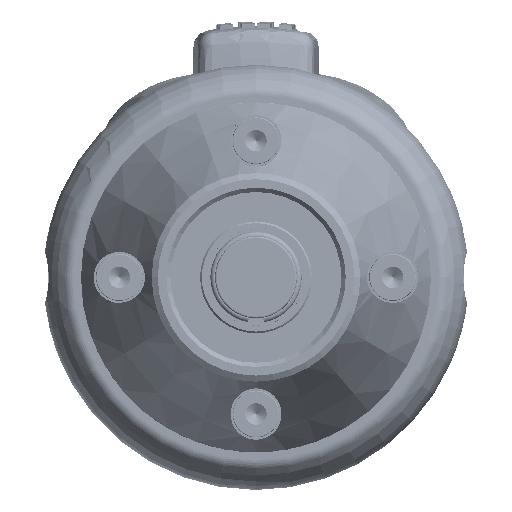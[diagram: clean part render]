
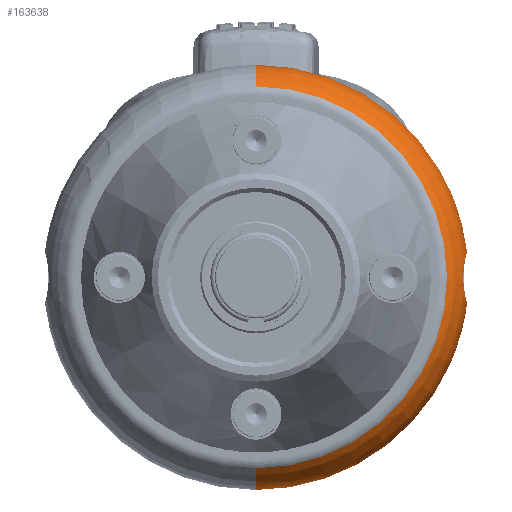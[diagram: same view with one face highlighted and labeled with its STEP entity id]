
A CAD part, front view. The second image highlights one B-rep face of the part: STEP entity #163638.
In plain terms, the highlighted toroidal (fillet/blend) face has major radius 17.4 mm and minor radius 7.5 mm.
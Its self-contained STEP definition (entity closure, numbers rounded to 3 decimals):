
#133213=CARTESIAN_POINT('',(0.,18.,17.4));
#133214=DIRECTION('',(-1.,0.,0.));
#133215=DIRECTION('',(0.,-0.75,0.661));
#133216=AXIS2_PLACEMENT_3D('',#133213,#133214,#133215);
#135645=CARTESIAN_POINT('',(0.,18.,-17.4));
#135646=DIRECTION('',(-1.,0.,0.));
#135647=DIRECTION('',(0.,0.289,-0.957));
#135648=AXIS2_PLACEMENT_3D('',#135645,#135646,#135647);
#139813=CARTESIAN_POINT('',(0.,12.375,0.));
#139814=DIRECTION('',(0.,-1.,0.));
#139815=DIRECTION('',(0.,0.,-1.));
#139816=AXIS2_PLACEMENT_3D('',#139813,#139814,#139815);
#139818=CARTESIAN_POINT('',(0.,20.171,0.));
#139819=DIRECTION('',(0.,-1.,0.));
#139820=DIRECTION('',(0.,0.,-1.));
#139821=AXIS2_PLACEMENT_3D('',#139818,#139819,#139820);
#139823=CARTESIAN_POINT('',(0.,20.171,0.));
#139824=DIRECTION('',(0.,-1.,0.));
#139825=DIRECTION('',(0.996,0.,0.084));
#139826=AXIS2_PLACEMENT_3D('',#139823,#139824,#139825);
#139835=CARTESIAN_POINT('',(24.719,18.,-3.));
#139836=CARTESIAN_POINT('',(24.719,18.265,
-3.));
#139837=CARTESIAN_POINT('',(24.699,18.798,
-2.93));
#139838=CARTESIAN_POINT('',(24.612,19.553,
-2.61));
#139839=CARTESIAN_POINT('',(24.532,19.982,
-2.268));
#139840=CARTESIAN_POINT('',(24.492,20.171,
-2.07));
#139842=CARTESIAN_POINT('',(24.492,20.171,
2.07));
#139843=CARTESIAN_POINT('',(24.512,20.075,
2.171));
#139844=CARTESIAN_POINT('',(24.553,19.87,
2.358));
#139845=CARTESIAN_POINT('',(24.611,19.523,
2.596));
#139846=CARTESIAN_POINT('',(24.656,19.167,
2.772));
#139847=CARTESIAN_POINT('',(24.687,18.839,
2.887));
#139848=CARTESIAN_POINT('',(24.707,18.533,
2.957));
#139849=CARTESIAN_POINT('',(24.716,18.266,
2.992));
#139850=CARTESIAN_POINT('',(24.719,18.087,
3.));
#139851=CARTESIAN_POINT('',(24.719,18.,3.));
#139877=CARTESIAN_POINT('',(24.719,18.,3.));
#139878=CARTESIAN_POINT('',(24.719,17.855,
3.));
#139879=CARTESIAN_POINT('',(24.713,17.564,
2.98));
#139880=CARTESIAN_POINT('',(24.685,17.122,
2.88));
#139881=CARTESIAN_POINT('',(24.645,16.734,
2.729));
#139882=CARTESIAN_POINT('',(24.599,16.404,
2.549));
#139883=CARTESIAN_POINT('',(24.545,16.085,
2.322));
#139884=CARTESIAN_POINT('',(24.477,15.756,
2.009));
#139885=CARTESIAN_POINT('',(24.411,15.48,
1.648));
#139886=CARTESIAN_POINT('',(24.353,15.265,
1.258));
#139887=CARTESIAN_POINT('',(24.308,15.111,
0.848));
#139888=CARTESIAN_POINT('',(24.28,15.02,
0.427));
#139889=CARTESIAN_POINT('',(24.274,15.,0.142));
#139890=CARTESIAN_POINT('',(24.274,15.,0.));
#139900=CARTESIAN_POINT('',(24.274,15.,0.));
#139901=CARTESIAN_POINT('',(24.274,15.,-0.251));
#139902=CARTESIAN_POINT('',(24.294,15.062,
-0.761));
#139903=CARTESIAN_POINT('',(24.384,15.369,
-1.514));
#139904=CARTESIAN_POINT('',(24.501,15.846,
-2.137));
#139905=CARTESIAN_POINT('',(24.617,16.477,
-2.626));
#139906=CARTESIAN_POINT('',(24.699,17.218,
-2.932));
#139907=CARTESIAN_POINT('',(24.719,17.74,
-3.));
#139908=CARTESIAN_POINT('',(24.719,18.,-3.));
#149538=CARTESIAN_POINT('',(0.,12.375,22.361));
#149539=CARTESIAN_POINT('',(0.,20.171,24.579));
#149540=VERTEX_POINT('',#149538);
#149541=VERTEX_POINT('',#149539);
#150794=CARTESIAN_POINT('',(0.,20.171,-24.579));
#150795=CARTESIAN_POINT('',(24.492,20.171,
-2.07));
#150796=VERTEX_POINT('',#150794);
#150797=VERTEX_POINT('',#150795);
#151746=CARTESIAN_POINT('',(0.,12.375,-22.361));
#151747=VERTEX_POINT('',#151746);
#152605=CARTESIAN_POINT('',(24.492,20.171,
2.07));
#152606=VERTEX_POINT('',#152605);
#152653=CARTESIAN_POINT('',(24.719,18.,-3.));
#152655=VERTEX_POINT('',#152653);
#152657=CARTESIAN_POINT('',(24.719,18.,3.));
#152659=VERTEX_POINT('',#152657);
#152661=VERTEX_POINT('',#139890);
#163616=CARTESIAN_POINT('',(0.,18.,0.));
#163617=DIRECTION('',(0.,-1.,0.));
#163618=DIRECTION('',(0.,0.,1.));
#163619=AXIS2_PLACEMENT_3D('',#163616,#163617,#163618);
#163620=TOROIDAL_SURFACE('',#163619,17.4,7.5);
#163622=ORIENTED_EDGE('',*,*,#163621,.T.);
#163624=ORIENTED_EDGE('',*,*,#163623,.T.);
#163626=ORIENTED_EDGE('',*,*,#163625,.T.);
#163628=ORIENTED_EDGE('',*,*,#163627,.T.);
#163630=ORIENTED_EDGE('',*,*,#163629,.F.);
#163631=ORIENTED_EDGE('',*,*,#157557,.T.);
#163632=ORIENTED_EDGE('',*,*,#163609,.T.);
#163633=ORIENTED_EDGE('',*,*,#155006,.T.);
#163635=ORIENTED_EDGE('',*,*,#163634,.F.);
#163636=EDGE_LOOP('',(#163622,#163624,#163626,#163628,#163630,#163631,#163632,
#163633,#163635));
#163637=FACE_OUTER_BOUND('',#163636,.F.);
#163638=ADVANCED_FACE('',(#163637),#163620,.T.);
#133217=CIRCLE('',#133216,7.5);
#135649=CIRCLE('',#135648,7.5);
#139817=CIRCLE('',#139816,22.361);
#139822=CIRCLE('',#139821,24.579);
#139827=CIRCLE('',#139826,24.579);
#139841=B_SPLINE_CURVE_WITH_KNOTS('',3,(#139835,#139836,#139837,#139838,#139839,
#139840),.UNSPECIFIED.,.F.,.F.,(4,1,1,4),(0.,0.333,
0.667,1.),.UNSPECIFIED.);
#139852=B_SPLINE_CURVE_WITH_KNOTS('',3,(#139842,#139843,#139844,#139845,#139846,
#139847,#139848,#139849,#139850,#139851),.UNSPECIFIED.,.F.,.F.,(4,1,1,1,1,1,1,
4),(0.,0.143,0.286,0.429,
0.571,0.714,0.857,1.),.UNSPECIFIED.);
#139891=B_SPLINE_CURVE_WITH_KNOTS('',3,(#139877,#139878,#139879,#139880,#139881,
#139882,#139883,#139884,#139885,#139886,#139887,#139888,#139889,#139890),
.UNSPECIFIED.,.F.,.F.,(4,1,1,1,1,1,1,1,1,1,1,4),(0.,0.091,
0.182,0.273,0.364,0.455,
0.545,0.636,0.727,0.818,
0.909,1.),.UNSPECIFIED.);
#139909=B_SPLINE_CURVE_WITH_KNOTS('',3,(#139900,#139901,#139902,#139903,#139904,
#139905,#139906,#139907,#139908),.UNSPECIFIED.,.F.,.F.,(4,1,1,1,1,1,4),(0.,
0.167,0.333,0.5,0.667,0.833,
1.),.UNSPECIFIED.);
#155006=EDGE_CURVE('',#149540,#149541,#133217,.T.);
#157557=EDGE_CURVE('',#150796,#151747,#135649,.T.);
#163609=EDGE_CURVE('',#151747,#149540,#139817,.T.);
#163621=EDGE_CURVE('',#152606,#152659,#139852,.T.);
#163623=EDGE_CURVE('',#152659,#152661,#139891,.T.);
#163625=EDGE_CURVE('',#152661,#152655,#139909,.T.);
#163627=EDGE_CURVE('',#152655,#150797,#139841,.T.);
#163629=EDGE_CURVE('',#150796,#150797,#139822,.T.);
#163634=EDGE_CURVE('',#152606,#149541,#139827,.T.);
